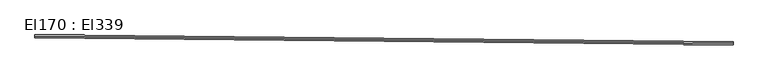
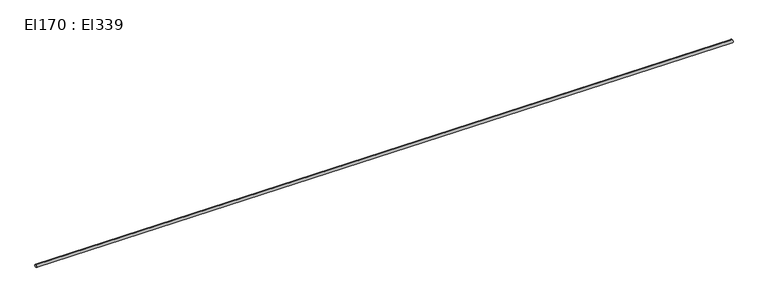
"""IFC4 building model written with IfcOpenShell, lengths in millimetres: cable carrier segment geometry, El170 : El339."""

import ifcopenshell
import ifcopenshell.guid

model = None  # the IFC model being written
_history = None  # IfcOwnerHistory: only IFC2X3 demands one
_inside = {}  # id of a spatial element -> (the spatial element, [elements in it])
_under = {}  # id of a project, library or spatial element -> (it, [spatial elements below it])
_declared = {}  # id of a project -> (the project, [libraries it declares])
_typed = {}  # id of a type object -> (the type object, [elements of that type])
_made_of = {}  # id of a material, layer set ... -> (it, [elements and type objects made of it])


def new_model(schema):
    """Start an empty IFC model of exactly this schema.

    Asked for "IFC4X3", IfcOpenShell would pick the latest addendum, in which some entities
    have other attributes; the version numbers below select the first issue.
    IFC2X3 requires an IfcOwnerHistory on every rooted entity: one is made here for all.
    """
    global model, _history
    if schema == "IFC4X3":
        model = ifcopenshell.file(schema_version=(4, 3, 0, 0))
    else:
        model = ifcopenshell.file(schema=schema)
    _inside.clear()
    _under.clear()
    _declared.clear()
    _typed.clear()
    _made_of.clear()
    _history = None
    if model.schema == "IFC2X3":
        org = make("IfcOrganization", Name="unknown")
        user = make(
            "IfcPersonAndOrganization",
            ThePerson=make("IfcPerson", FamilyName="unknown"),
            TheOrganization=org,
        )
        app = make(
            "IfcApplication",
            ApplicationDeveloper=org,
            Version="unknown",
            ApplicationFullName="unknown",
            ApplicationIdentifier="unknown",
        )
        _history = make(
            "IfcOwnerHistory",
            OwningUser=user,
            OwningApplication=app,
            ChangeAction="ADDED",
            CreationDate=0,
        )
    return model


def make(cls, **values):
    """One entity of the class cls with the attributes given. An attribute that is None is left unset."""
    return model.create_entity(
        cls, **{name: value for name, value in values.items() if value is not None}
    )


def rooted(cls, **values):
    """An entity with a GlobalId (a new one), such as an element, a storey or a relation."""
    return make(cls, GlobalId=ifcopenshell.guid.new(), OwnerHistory=_history, **values)


def si_unit(unit_type, name, prefix=None):
    """IfcSIUnit, for example si_unit("LENGTHUNIT", "METRE", prefix="MILLI")."""
    return make("IfcSIUnit", UnitType=unit_type, Prefix=prefix, Name=name)


def assignment(units):
    """IfcUnitAssignment: the units of a project."""
    return None if units is None else make("IfcUnitAssignment", Units=units)


def point(xyz):
    """IfcCartesianPoint."""
    return None if xyz is None else make("IfcCartesianPoint", Coordinates=xyz)


def direction(xyz):
    """IfcDirection."""
    return None if xyz is None else make("IfcDirection", DirectionRatios=xyz)


def frame(location, z_axis=None, x_axis=None):
    """IfcAxis2Placement3D, a coordinate frame: its origin and axes. An axis left out is left unset."""
    return make(
        "IfcAxis2Placement3D",
        Location=point(location),
        Axis=direction(z_axis),
        RefDirection=direction(x_axis),
    )


def frame_2d(location, x_axis=None):
    """IfcAxis2Placement2D, a coordinate frame in the plane: its origin and x axis."""
    return make(
        "IfcAxis2Placement2D", Location=point(location), RefDirection=direction(x_axis)
    )


def origin():
    """The frame at (0, 0, 0) with its axes left unset."""
    return frame((0.0, 0.0, 0.0))


def place(relative_to, where):
    """IfcLocalPlacement: puts the frame where relative to a parent placement (None: the world)."""
    return make(
        "IfcLocalPlacement", PlacementRelTo=relative_to, RelativePlacement=where
    )


def context(
    kind, dimensions, precision=None, world=None, true_north=None, identifier=None
):
    """IfcGeometricRepresentationContext, for example the 3D "Model" context."""
    return make(
        "IfcGeometricRepresentationContext",
        ContextIdentifier=identifier,
        ContextType=kind,
        CoordinateSpaceDimension=dimensions,
        Precision=precision,
        WorldCoordinateSystem=world,
        TrueNorth=true_north,
    )


def project(units=None, contexts=None):
    """IfcProject with its units and contexts."""
    return rooted(
        "IfcProject",
        Name="project",
        RepresentationContexts=contexts,
        UnitsInContext=assignment(units),
    )


def spatial(cls, under=None, at=None, **own):
    """A site, building, storey or space (cls), placed at a placement, below another one or the project."""
    s = rooted(cls, ObjectPlacement=at, **own)
    if under is not None:
        _under.setdefault(under.id(), (under, []))[1].append(s)
    return s


def circle_curve(where, radius):
    """IfcCircle in the frame where."""
    return make("IfcCircle", Position=where, Radius=radius)


def trimmed(basis, trim1, trim2, sense, master):
    """IfcTrimmedCurve: the piece of a basis curve between two trims."""
    return make(
        "IfcTrimmedCurve",
        BasisCurve=basis,
        Trim1=trim1,
        Trim2=trim2,
        SenseAgreement=sense,
        MasterRepresentation=master,
    )


def segment(curve, same_sense, transition):
    """IfcCompositeCurveSegment."""
    return make(
        "IfcCompositeCurveSegment",
        Transition=transition,
        SameSense=same_sense,
        ParentCurve=curve,
    )


def composite_curve(segments, self_intersect=None):
    """IfcCompositeCurve: segments joined end to end."""
    return make("IfcCompositeCurve", Segments=segments, SelfIntersect=self_intersect)


def outline(outer, holes=None, kind="AREA"):
    """IfcArbitraryClosedProfileDef: a profile drawn as a closed curve; with holes, ...WithVoids."""
    if holes is None:
        return make("IfcArbitraryClosedProfileDef", ProfileType=kind, OuterCurve=outer)
    return make(
        "IfcArbitraryProfileDefWithVoids",
        ProfileType=kind,
        OuterCurve=outer,
        InnerCurves=holes,
    )


def extrude(swept, where, along, depth):
    """IfcExtrudedAreaSolid: the profile swept, set in the frame where, extruded along a direction by depth."""
    return make(
        "IfcExtrudedAreaSolid",
        SweptArea=swept,
        Position=where,
        ExtrudedDirection=direction(along),
        Depth=depth,
    )


def shape(context_of_items, identifier, shape_type, items):
    """IfcShapeRepresentation: the items that make up one representation, for example the "Body"."""
    return make(
        "IfcShapeRepresentation",
        ContextOfItems=context_of_items,
        RepresentationIdentifier=identifier,
        RepresentationType=shape_type,
        Items=items,
    )


def source(mapping_origin, context_of_items, identifier, shape_type, items):
    """IfcRepresentationMap: a shape defined once, which mapped items show again and again."""
    return make(
        "IfcRepresentationMap",
        MappingOrigin=mapping_origin,
        MappedRepresentation=shape(context_of_items, identifier, shape_type, items),
    )


def transform(
    local_origin,
    x_axis=None,
    y_axis=None,
    z_axis=None,
    scale=None,
    scale2=None,
    scale3=None,
    uniform=True,
):
    """IfcCartesianTransformationOperator3D, or its non-uniform kind. x_axis, y_axis, z_axis: its Axis1, 2, 3."""
    if uniform:
        return make(
            "IfcCartesianTransformationOperator3D",
            Axis1=direction(x_axis),
            Axis2=direction(y_axis),
            LocalOrigin=point(local_origin),
            Scale=scale,
            Axis3=direction(z_axis),
        )
    return make(
        "IfcCartesianTransformationOperator3DnonUniform",
        Axis1=direction(x_axis),
        Axis2=direction(y_axis),
        LocalOrigin=point(local_origin),
        Scale=scale,
        Axis3=direction(z_axis),
        Scale2=scale2,
        Scale3=scale3,
    )


def mapped(mapping_source, mapping_target):
    """IfcMappedItem: shows the shape of a source again, moved by a transform."""
    return make(
        "IfcMappedItem", MappingSource=mapping_source, MappingTarget=mapping_target
    )


def made_of(thing, what):
    """Note that an element or type object is made of a material, layer set ...; save() writes the relation."""
    if what is not None:
        _made_of.setdefault(what.id(), (what, []))[1].append(thing)
    return thing


def element(
    cls,
    number,
    at=None,
    inside=None,
    cuts=None,
    type_object=None,
    material=None,
    context=None,
    identifier="Body",
    shape_type=None,
    held_by="IfcProductDefinitionShape",
    body=None,
    shapes=None,
    **own,
):
    """One element of the class cls, such as IfcWall. Its Tag is "e" and its number.

    at: its placement. inside: the storey or other place that contains it. cuts: it is an
    opening in that element (IfcRelVoidsElement). A single representation is given by context,
    identifier, shape_type and body (its items); several are given by shapes. held_by: the class
    of the entity that holds the representations. save() writes the other relations.
    """
    e = rooted(cls, Tag="e%d" % number, ObjectPlacement=at, **own)
    if body is not None:
        shapes = [shape(context, identifier, shape_type, body)]
    if shapes is not None:
        e.Representation = make(held_by, Representations=shapes)
    if inside is not None:
        _inside.setdefault(inside.id(), (inside, []))[1].append(e)
    if cuts is not None:
        rooted(
            "IfcRelVoidsElement", RelatingBuildingElement=cuts, RelatedOpeningElement=e
        )
    if type_object is not None:
        _typed.setdefault(type_object.id(), (type_object, []))[1].append(e)
    return made_of(e, material)


def aggregate(whole, parts):
    """IfcRelAggregates: a whole, such as a stair, and the parts it consists of."""
    return rooted("IfcRelAggregates", RelatingObject=whole, RelatedObjects=parts)


def save(model, path):
    """Write the relations noted so far, then the file.

    IfcRelAggregates (storeys below a building ...), IfcRelContainedInSpatialStructure (elements
    in a storey), IfcRelDefinesByType, IfcRelAssociatesMaterial and IfcRelDeclares: one each for
    every whole, place, type object, material and project.
    """
    for whole, parts in _under.values():
        aggregate(whole, parts)
    for where, things in _inside.values():
        rooted(
            "IfcRelContainedInSpatialStructure",
            RelatedElements=things,
            RelatingStructure=where,
        )
    for kind, things in _typed.values():
        rooted("IfcRelDefinesByType", RelatedObjects=things, RelatingType=kind)
    for what, things in _made_of.values():
        rooted("IfcRelAssociatesMaterial", RelatedObjects=things, RelatingMaterial=what)
    for by, libraries in _declared.values():
        rooted("IfcRelDeclares", RelatingContext=by, RelatedDefinitions=libraries)
    model.write(path)


def el170_el339_c05dac83(model_context):
    return source(origin(), model_context, "Body", "SweptSolid", [
        extrude(outline(composite_curve([segment(trimmed(circle_curve(frame_2d((0.0, -9.5)), 9.5), [point((0.0, -19.0))], [point((0.0, 0.0))], False, "CARTESIAN"), True, "CONTINUOUS"), segment(trimmed(circle_curve(frame_2d((0.0, -9.5)), 9.5), [point((0.0, 0.0))], [point((0.0, -19.0))], False, "CARTESIAN"), True, "CONTINUOUS")], self_intersect=False)), frame((22705.7946511, -781.1927255, 1509.5), z_axis=(-0.9999504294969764, 0.009956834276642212, 0.0), x_axis=(-0.009956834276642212, -0.9999504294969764, 0.0)), (0.0, 0.0, 1.0), 4653.07),
    ])


if __name__ == "__main__":
    model = new_model("IFC4")
    model_context = context("Model", 3, world=origin())
    ifc_project = project(units=[si_unit("LENGTHUNIT", "METRE", prefix="MILLI")], contexts=[model_context])
    site = spatial("IfcSite", under=ifc_project)
    building = spatial("IfcBuilding", under=site)
    placement = place(None, origin())
    el170_el339_shape = el170_el339_c05dac83(model_context)
    element("IfcCableCarrierSegment", 1, ObjectType="El170 : El339", at=placement, inside=building, context=model_context, shape_type="MappedRepresentation", body=[
        mapped(el170_el339_shape, transform((0.0, 0.0, 0.0), x_axis=(1.0, 0.0, 0.0), y_axis=(0.0, 1.0, 0.0), z_axis=(0.0, 0.0, 1.0))),
    ])
    save(model, "model.ifc")
